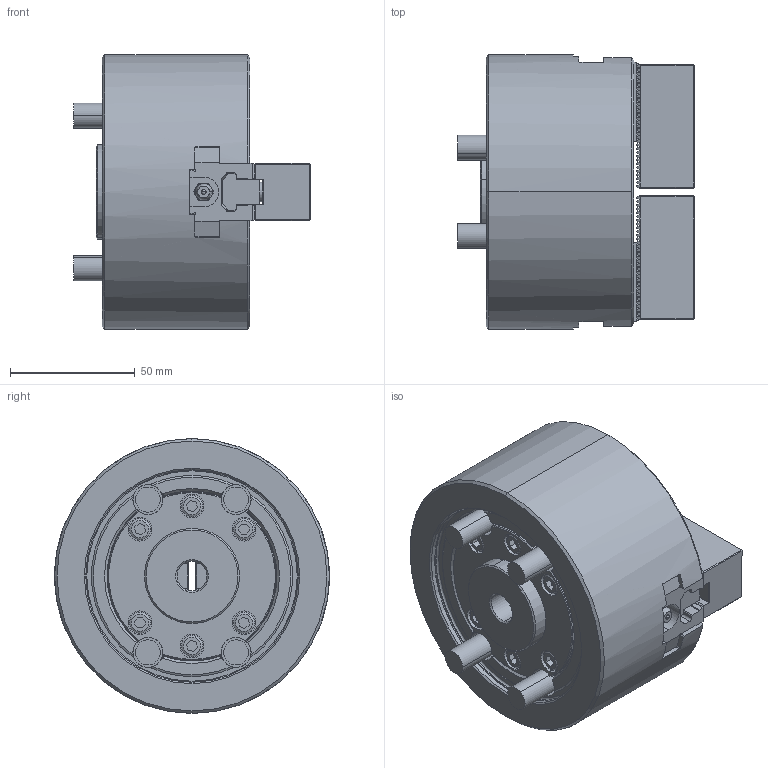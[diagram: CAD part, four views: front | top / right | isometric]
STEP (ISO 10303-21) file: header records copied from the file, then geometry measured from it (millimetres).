
FILE_DESCRIPTION (( 'STEP AP214' ), '1' );
FILE_NAME ('BT204_61P327187-6_OC.STEP', '2020-12-09T02:58:17', ( '' ), ( '' ), 'SwSTEP 2.0', 'SolidWorks 2017', '' );
FILE_SCHEMA (( 'AUTOMOTIVE_DESIGN' ));
Length unit declared in the file: millimetre
Products named in the file (14): Bアナツキ M8×20; 61P423612-4_SOFT JAW; 61P422113-1_T僫僢僩; BT204_BASE^61P327186-6_BT204 ASSY; BT204_61P327187-6_OC
Assembly tree (9 placements, depth 2):
  Bアナツキ M8×20
  Bアナツキ M8×20
  Bアナツキ M8×20
  Bアナツキ M8×20
  61P423612-4_SOFT JAW
Bounding box: 94.7 x 110 x 110 mm (x, y, z)
Volume: 547994.2 mm3; surface area: 102701.6 mm2
Topology: 9 solids, 17 shells, 2318 faces, 6419 edges, 4220 vertices
Faces by surface type: plane 1582, cylinder 494, cone 106, bspline 90, torus 38, sphere 8
Entity records: 64958 total; most frequent: CARTESIAN_POINT 15768, ORIENTED_EDGE 10694, DIRECTION 9453, EDGE_CURVE 5347, LINE 3915, VECTOR 3915, VERTEX_POINT 3516, AXIS2_PLACEMENT_3D 2769
